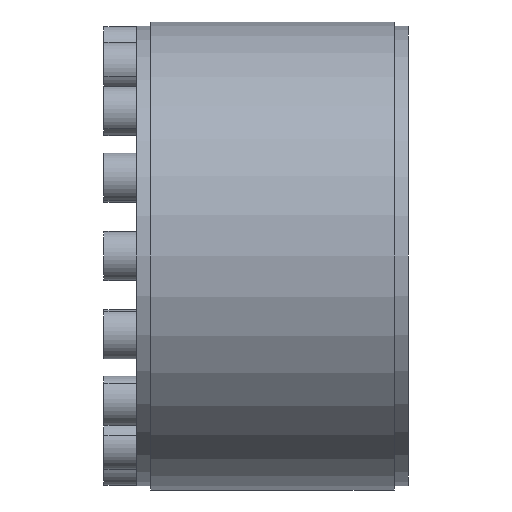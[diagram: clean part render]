
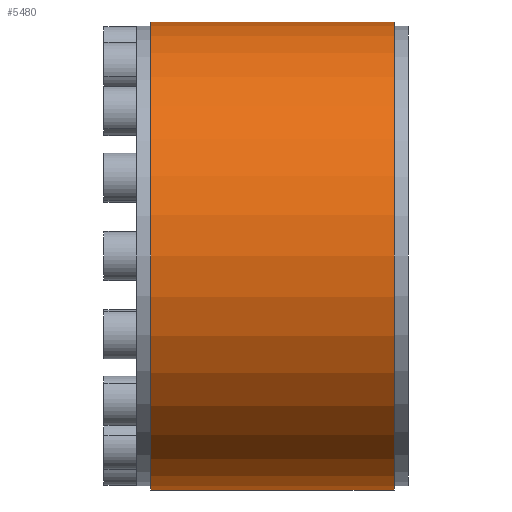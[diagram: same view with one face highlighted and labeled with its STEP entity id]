
A CAD part, front view. The second image highlights one B-rep face of the part: STEP entity #5480.
In plain terms, the highlighted cylindrical face has radius 100 mm (diameter 200 mm), a partial arc.
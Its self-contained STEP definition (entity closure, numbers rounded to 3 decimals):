
#4205 = VERTEX_POINT ( 'NONE', #5970 ) ;
#4206 = VERTEX_POINT ( 'NONE', #5969 ) ;
#4208 = EDGE_CURVE ( 'NONE', #4206, #4209, #5967, .T. ) ;
#4209 = VERTEX_POINT ( 'NONE', #5963 ) ;
#4212 = VERTEX_POINT ( 'NONE', #5942 ) ;
#4285 = EDGE_CURVE ( 'NONE', #4205, #4212, #4904, .T. ) ;
#4899 = DIRECTION ( 'NONE',  ( -1., 0., 0. ) ) ;
#4901 = VECTOR ( 'NONE', #4899, 1000. ) ;
#4903 = CARTESIAN_POINT ( 'NONE',  ( 0., 0., 100. ) ) ;
#4904 = LINE ( 'NONE', #4903, #4901 ) ;
#5417 = EDGE_CURVE ( 'NONE', #4209, #4212, #9043, .T. ) ;
#5480 = ADVANCED_FACE ( 'NONE', ( #9005 ), #9004, .T. ) ;
#5481 = EDGE_LOOP ( 'NONE', ( #5482, #5483, #5484, #5612 ) ) ;
#5482 = ORIENTED_EDGE ( 'NONE', *, *, #4208, .F. ) ;
#5483 = ORIENTED_EDGE ( 'NONE', *, *, #5574, .T. ) ;
#5484 = ORIENTED_EDGE ( 'NONE', *, *, #4285, .T. ) ;
#5574 = EDGE_CURVE ( 'NONE', #4206, #4205, #9495, .T. ) ;
#5612 = ORIENTED_EDGE ( 'NONE', *, *, #5417, .F. ) ;
#5942 = CARTESIAN_POINT ( 'NONE',  ( 6., 0., 100. ) ) ;
#5963 = CARTESIAN_POINT ( 'NONE',  ( 6., 0., -100. ) ) ;
#5964 = DIRECTION ( 'NONE',  ( -1., 0., 0. ) ) ;
#5965 = VECTOR ( 'NONE', #5964, 1000. ) ;
#5966 = CARTESIAN_POINT ( 'NONE',  ( 0., 0., -100. ) ) ;
#5967 = LINE ( 'NONE', #5966, #5965 ) ;
#5969 = CARTESIAN_POINT ( 'NONE',  ( 110., 0., -100. ) ) ;
#5970 = CARTESIAN_POINT ( 'NONE',  ( 110., 0., 100. ) ) ;
#9000 = DIRECTION ( 'NONE',  ( 0., 0., 1. ) ) ;
#9001 = AXIS2_PLACEMENT_3D ( 'NONE', #9003, #9010, #9000 ) ;
#9003 = CARTESIAN_POINT ( 'NONE',  ( 0., 0., 0. ) ) ;
#9004 = CYLINDRICAL_SURFACE ( 'NONE', #9001, 100. ) ;
#9005 = FACE_OUTER_BOUND ( 'NONE', #5481, .T. ) ;
#9010 = DIRECTION ( 'NONE',  ( -1., 0., 0. ) ) ;
#9039 = DIRECTION ( 'NONE',  ( 0., 0., 1. ) ) ;
#9040 = DIRECTION ( 'NONE',  ( -1., 0., 0. ) ) ;
#9041 = CARTESIAN_POINT ( 'NONE',  ( 6., 0., 0. ) ) ;
#9042 = AXIS2_PLACEMENT_3D ( 'NONE', #9041, #9040, #9039 ) ;
#9043 = CIRCLE ( 'NONE', #9042, 100. ) ;
#9492 = DIRECTION ( 'NONE',  ( 0., 0., 1. ) ) ;
#9493 = DIRECTION ( 'NONE',  ( -1., 0., 0. ) ) ;
#9494 = AXIS2_PLACEMENT_3D ( 'NONE', #9499, #9493, #9492 ) ;
#9495 = CIRCLE ( 'NONE', #9494, 100. ) ;
#9499 = CARTESIAN_POINT ( 'NONE',  ( 110., 0., 0. ) ) ;
